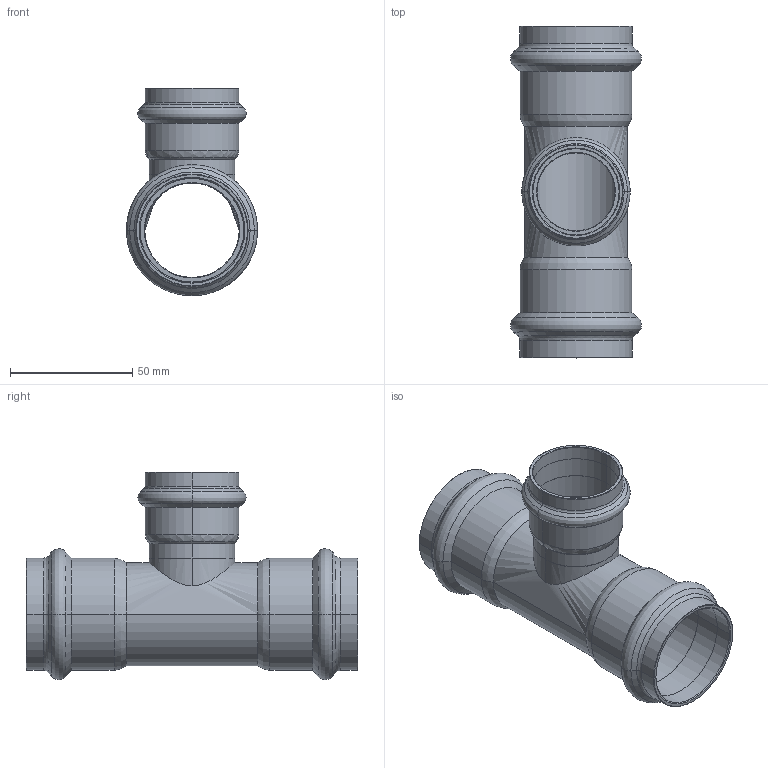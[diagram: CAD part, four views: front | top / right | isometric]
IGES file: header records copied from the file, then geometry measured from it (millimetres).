
Start section: Elysium IGES Interface
Global section: file name: C:\Users\Wallenburg\Desktop\3d modellen sudo\S-Pr VP\SP6130RV\6130RVW423542.igs; native system: CoCreate Modeling 17.00A  17-Jun-2010; preprocessor: CoCreate IGES_3D V2.2; author: Unknown; organization: Unknown; date: 20130117.150715; units: millimetre
Bounding box: 53.61 x 135.73 x 84.85 mm (x, y, z)
Volume: 47053.1 mm3; surface area: 47344.4 mm2
Topology: 1 solids, 1 shells, 128 faces, 268 edges, 144 vertices
Faces by surface type: bspline 128
